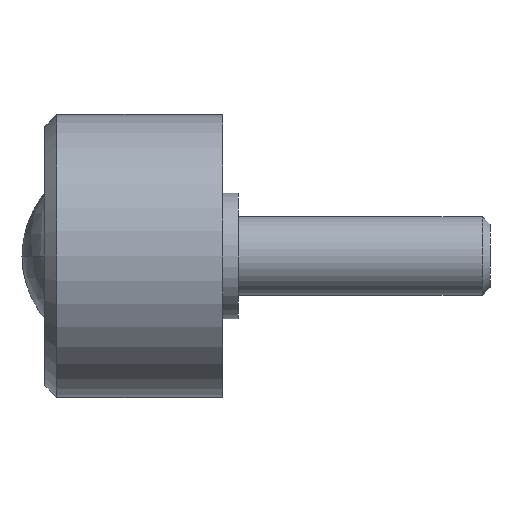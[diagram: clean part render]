
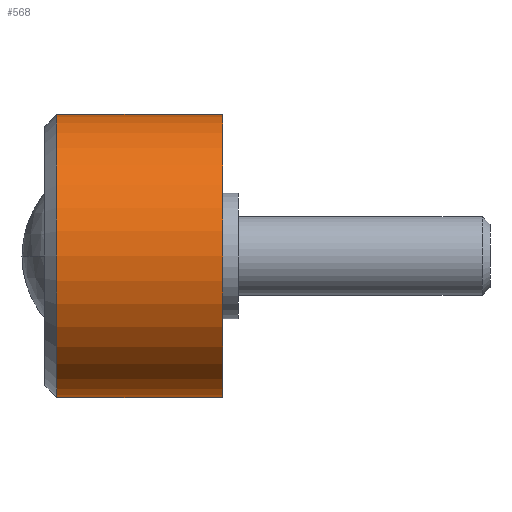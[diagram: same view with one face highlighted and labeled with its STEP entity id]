
A CAD part, left-side view. The second image highlights one B-rep face of the part: STEP entity #568.
In plain terms, the highlighted cylindrical face has radius 18 mm (diameter 36 mm), a partial arc.
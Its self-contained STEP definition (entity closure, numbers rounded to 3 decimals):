
#48 = EDGE_CURVE ( 'NONE', #540, #127, #616, .T. ) ;
#54 = FACE_OUTER_BOUND ( 'NONE', #333, .T. ) ;
#70 = ORIENTED_EDGE ( 'NONE', *, *, #620, .F. ) ;
#80 = CARTESIAN_POINT ( 'NONE',  ( 0., 0., -18. ) ) ;
#127 = VERTEX_POINT ( 'NONE', #736 ) ;
#134 = EDGE_CURVE ( 'NONE', #540, #608, #316, .T. ) ;
#154 = EDGE_CURVE ( 'NONE', #127, #238, #260, .T. ) ;
#171 = AXIS2_PLACEMENT_3D ( 'NONE', #539, #291, #237 ) ;
#183 = CARTESIAN_POINT ( 'NONE',  ( 0., 0., 0. ) ) ;
#229 = VECTOR ( 'NONE', #694, 1000. ) ;
#237 = DIRECTION ( 'NONE',  ( 0., 0., -1. ) ) ;
#238 = VERTEX_POINT ( 'NONE', #397 ) ;
#260 = LINE ( 'NONE', #80, #229 ) ;
#276 = AXIS2_PLACEMENT_3D ( 'NONE', #183, #609, #425 ) ;
#291 = DIRECTION ( 'NONE',  ( 0., -1., 0. ) ) ;
#302 = CYLINDRICAL_SURFACE ( 'NONE', #171, 18. ) ;
#305 = DIRECTION ( 'NONE',  ( 0., 0., 1. ) ) ;
#316 = LINE ( 'NONE', #745, #665 ) ;
#333 = EDGE_LOOP ( 'NONE', ( #576, #737, #526, #70 ) ) ;
#379 = DIRECTION ( 'NONE',  ( 0., -1., 0. ) ) ;
#397 = CARTESIAN_POINT ( 'NONE',  ( 0., 0., -18. ) ) ;
#411 = CARTESIAN_POINT ( 'NONE',  ( 0., 21.1, 18. ) ) ;
#425 = DIRECTION ( 'NONE',  ( 0., 0., -1. ) ) ;
#520 = AXIS2_PLACEMENT_3D ( 'NONE', #547, #726, #305 ) ;
#526 = ORIENTED_EDGE ( 'NONE', *, *, #154, .T. ) ;
#539 = CARTESIAN_POINT ( 'NONE',  ( 0., 0., 0. ) ) ;
#540 = VERTEX_POINT ( 'NONE', #411 ) ;
#547 = CARTESIAN_POINT ( 'NONE',  ( 0., 21.1, 0. ) ) ;
#568 = ADVANCED_FACE ( 'NONE', ( #54 ), #302, .T. ) ;
#576 = ORIENTED_EDGE ( 'NONE', *, *, #134, .F. ) ;
#608 = VERTEX_POINT ( 'NONE', #662 ) ;
#609 = DIRECTION ( 'NONE',  ( 0., -1., 0. ) ) ;
#616 = CIRCLE ( 'NONE', #520, 18. ) ;
#620 = EDGE_CURVE ( 'NONE', #608, #238, #654, .T. ) ;
#654 = CIRCLE ( 'NONE', #276, 18. ) ;
#662 = CARTESIAN_POINT ( 'NONE',  ( 0., 0., 18. ) ) ;
#665 = VECTOR ( 'NONE', #379, 1000. ) ;
#694 = DIRECTION ( 'NONE',  ( 0., -1., 0. ) ) ;
#726 = DIRECTION ( 'NONE',  ( 0., -1., 0. ) ) ;
#736 = CARTESIAN_POINT ( 'NONE',  ( 0., 21.1, -18. ) ) ;
#737 = ORIENTED_EDGE ( 'NONE', *, *, #48, .T. ) ;
#745 = CARTESIAN_POINT ( 'NONE',  ( 0., 0., 18. ) ) ;
